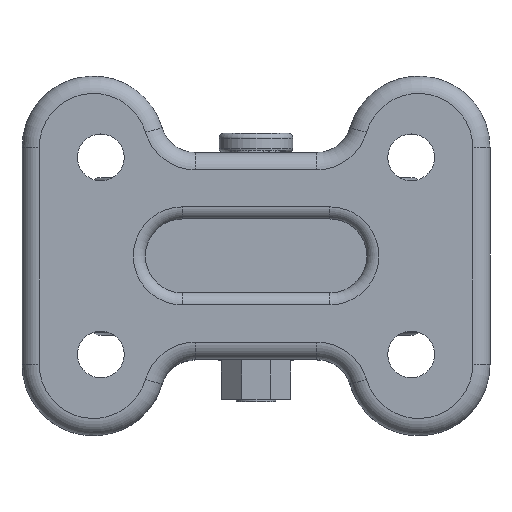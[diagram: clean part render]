
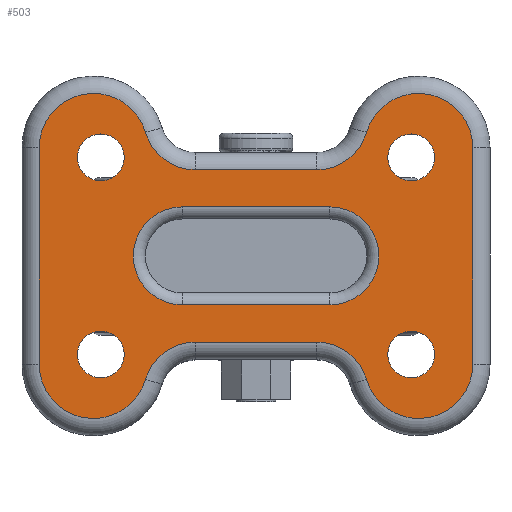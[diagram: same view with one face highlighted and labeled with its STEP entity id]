
A CAD part, top view. The second image highlights one B-rep face of the part: STEP entity #503.
In plain terms, the highlighted planar face has unit normal (0, 0, 1).
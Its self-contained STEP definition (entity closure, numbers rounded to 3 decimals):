
#503=ADVANCED_FACE('',(#1227,#1228,#1229,#1230,#1231,#1232),#764,.T.);
#764=PLANE('',#5656);
#1227=FACE_BOUND('',#1383,.T.);
#1228=FACE_BOUND('',#1384,.T.);
#1229=FACE_BOUND('',#1385,.T.);
#1230=FACE_BOUND('',#1386,.T.);
#1231=FACE_BOUND('',#1387,.T.);
#1232=FACE_BOUND('',#1388,.T.);
#1383=EDGE_LOOP('',(#2830,#2831,#2832,#2833,#2834,#2835,#2836,#2837,#2838,
#2839,#2840,#2841));
#1384=EDGE_LOOP('',(#2842,#2843,#2844,#2845));
#1385=EDGE_LOOP('',(#2846));
#1386=EDGE_LOOP('',(#2847));
#1387=EDGE_LOOP('',(#2848));
#1388=EDGE_LOOP('',(#2849));
#1732=LINE('',#8219,#2081);
#1733=LINE('',#8227,#2082);
#1734=LINE('',#8241,#2083);
#1735=LINE('',#8251,#2084);
#1737=LINE('',#8265,#2086);
#1747=LINE('',#8351,#2096);
#2081=VECTOR('',#6315,1.);
#2082=VECTOR('',#6326,1.);
#2083=VECTOR('',#6345,1.);
#2084=VECTOR('',#6360,1.);
#2086=VECTOR('',#6376,1.);
#2096=VECTOR('',#6452,1.);
#2830=ORIENTED_EDGE('',*,*,#4778,.T.);
#2831=ORIENTED_EDGE('',*,*,#4776,.T.);
#2832=ORIENTED_EDGE('',*,*,#4773,.T.);
#2833=ORIENTED_EDGE('',*,*,#4807,.T.);
#2834=ORIENTED_EDGE('',*,*,#4809,.T.);
#2835=ORIENTED_EDGE('',*,*,#4810,.T.);
#2836=ORIENTED_EDGE('',*,*,#4783,.T.);
#2837=ORIENTED_EDGE('',*,*,#4769,.T.);
#2838=ORIENTED_EDGE('',*,*,#4768,.T.);
#2839=ORIENTED_EDGE('',*,*,#4766,.T.);
#2840=ORIENTED_EDGE('',*,*,#4764,.T.);
#2841=ORIENTED_EDGE('',*,*,#4762,.T.);
#2842=ORIENTED_EDGE('',*,*,#4759,.T.);
#2843=ORIENTED_EDGE('',*,*,#4757,.T.);
#2844=ORIENTED_EDGE('',*,*,#4755,.T.);
#2845=ORIENTED_EDGE('',*,*,#4753,.T.);
#2846=ORIENTED_EDGE('',*,*,#4750,.F.);
#2847=ORIENTED_EDGE('',*,*,#4748,.F.);
#2848=ORIENTED_EDGE('',*,*,#4746,.F.);
#2849=ORIENTED_EDGE('',*,*,#4744,.F.);
#4174=VERTEX_POINT('',#8198);
#4176=VERTEX_POINT('',#8203);
#4178=VERTEX_POINT('',#8208);
#4180=VERTEX_POINT('',#8213);
#4182=VERTEX_POINT('',#8218);
#4183=VERTEX_POINT('',#8220);
#4184=VERTEX_POINT('',#8224);
#4185=VERTEX_POINT('',#8228);
#4186=VERTEX_POINT('',#8234);
#4187=VERTEX_POINT('',#8236);
#4188=VERTEX_POINT('',#8240);
#4189=VERTEX_POINT('',#8244);
#4190=VERTEX_POINT('',#8248);
#4191=VERTEX_POINT('',#8252);
#4194=VERTEX_POINT('',#8259);
#4195=VERTEX_POINT('',#8261);
#4196=VERTEX_POINT('',#8266);
#4200=VERTEX_POINT('',#8280);
#4214=VERTEX_POINT('',#8347);
#4215=VERTEX_POINT('',#8352);
#4744=EDGE_CURVE('',#4174,#4174,#5351,.T.);
#4746=EDGE_CURVE('',#4176,#4176,#5353,.T.);
#4748=EDGE_CURVE('',#4178,#4178,#5355,.T.);
#4750=EDGE_CURVE('',#4180,#4180,#5357,.T.);
#4753=EDGE_CURVE('',#4183,#4182,#1732,.T.);
#4755=EDGE_CURVE('',#4184,#4183,#5361,.T.);
#4757=EDGE_CURVE('',#4185,#4184,#1733,.T.);
#4759=EDGE_CURVE('',#4182,#4185,#5364,.T.);
#4762=EDGE_CURVE('',#4186,#4187,#5367,.T.);
#4764=EDGE_CURVE('',#4188,#4186,#1734,.T.);
#4766=EDGE_CURVE('',#4189,#4188,#5370,.T.);
#4768=EDGE_CURVE('',#4190,#4189,#5372,.T.);
#4769=EDGE_CURVE('',#4191,#4190,#1735,.T.);
#4773=EDGE_CURVE('',#4195,#4194,#5375,.T.);
#4776=EDGE_CURVE('',#4196,#4195,#1737,.T.);
#4778=EDGE_CURVE('',#4187,#4196,#5379,.T.);
#4783=EDGE_CURVE('',#4200,#4191,#5382,.T.);
#4807=EDGE_CURVE('',#4194,#4214,#5392,.T.);
#4809=EDGE_CURVE('',#4214,#4215,#1747,.T.);
#4810=EDGE_CURVE('',#4215,#4200,#5394,.T.);
#5351=CIRCLE('',#5581,4.75);
#5353=CIRCLE('',#5584,4.75);
#5355=CIRCLE('',#5587,4.75);
#5357=CIRCLE('',#5590,4.75);
#5361=CIRCLE('',#5596,9.949);
#5364=CIRCLE('',#5601,9.949);
#5367=CIRCLE('',#5605,10.5);
#5370=CIRCLE('',#5610,10.5);
#5372=CIRCLE('',#5613,11.);
#5375=CIRCLE('',#5618,11.);
#5379=CIRCLE('',#5624,11.);
#5382=CIRCLE('',#5629,11.);
#5392=CIRCLE('',#5652,10.5);
#5394=CIRCLE('',#5655,10.5);
#5581=AXIS2_PLACEMENT_3D('',#8197,#6289,#6290);
#5584=AXIS2_PLACEMENT_3D('',#8202,#6295,#6296);
#5587=AXIS2_PLACEMENT_3D('',#8207,#6301,#6302);
#5590=AXIS2_PLACEMENT_3D('',#8212,#6307,#6308);
#5596=AXIS2_PLACEMENT_3D('',#8223,#6320,#6321);
#5601=AXIS2_PLACEMENT_3D('',#8231,#6331,#6332);
#5605=AXIS2_PLACEMENT_3D('',#8237,#6339,#6340);
#5610=AXIS2_PLACEMENT_3D('',#8245,#6350,#6351);
#5613=AXIS2_PLACEMENT_3D('',#8249,#6356,#6357);
#5618=AXIS2_PLACEMENT_3D('',#8260,#6368,#6369);
#5624=AXIS2_PLACEMENT_3D('',#8269,#6381,#6382);
#5629=AXIS2_PLACEMENT_3D('',#8279,#6393,#6394);
#5652=AXIS2_PLACEMENT_3D('',#8348,#6446,#6447);
#5655=AXIS2_PLACEMENT_3D('',#8353,#6453,#6454);
#5656=AXIS2_PLACEMENT_3D('',#8354,#6455,#6456);
#6289=DIRECTION('',(0.,0.,1.));
#6290=DIRECTION('',(1.,0.,0.));
#6295=DIRECTION('',(0.,0.,1.));
#6296=DIRECTION('',(1.,0.,0.));
#6301=DIRECTION('',(0.,0.,1.));
#6302=DIRECTION('',(1.,0.,0.));
#6307=DIRECTION('',(0.,0.,1.));
#6308=DIRECTION('',(1.,0.,0.));
#6315=DIRECTION('',(-1.,0.,0.));
#6320=DIRECTION('',(0.,0.,-1.));
#6321=DIRECTION('',(1.,0.,0.));
#6326=DIRECTION('',(1.,0.,0.));
#6331=DIRECTION('',(0.,0.,-1.));
#6332=DIRECTION('',(1.,0.,0.));
#6339=DIRECTION('',(0.,0.,-1.));
#6340=DIRECTION('',(1.,0.,0.));
#6345=DIRECTION('',(-1.,0.,0.));
#6350=DIRECTION('',(0.,0.,-1.));
#6351=DIRECTION('',(1.,0.,0.));
#6356=DIRECTION('',(0.,0.,1.));
#6357=DIRECTION('',(1.,0.,0.));
#6360=DIRECTION('',(0.,1.,0.));
#6368=DIRECTION('',(0.,0.,1.));
#6369=DIRECTION('',(1.,0.,0.));
#6376=DIRECTION('',(0.,-1.,0.));
#6381=DIRECTION('',(0.,0.,1.));
#6382=DIRECTION('',(1.,0.,0.));
#6393=DIRECTION('',(0.,0.,1.));
#6394=DIRECTION('',(1.,0.,0.));
#6446=DIRECTION('',(0.,0.,-1.));
#6447=DIRECTION('',(1.,0.,0.));
#6452=DIRECTION('',(1.,0.,0.));
#6453=DIRECTION('',(0.,0.,-1.));
#6454=DIRECTION('',(1.,0.,0.));
#6455=DIRECTION('',(0.,0.,1.));
#6456=DIRECTION('',(-1.,0.,0.));
#8197=CARTESIAN_POINT('',(-31.551,20.,0.));
#8198=CARTESIAN_POINT('',(-26.801,20.,0.));
#8202=CARTESIAN_POINT('',(-31.551,-20.,0.));
#8203=CARTESIAN_POINT('',(-26.801,-20.,0.));
#8207=CARTESIAN_POINT('',(31.449,-20.,0.));
#8208=CARTESIAN_POINT('',(36.199,-20.,0.));
#8212=CARTESIAN_POINT('',(31.449,20.,0.));
#8213=CARTESIAN_POINT('',(36.199,20.,0.));
#8218=CARTESIAN_POINT('',(-15.,-9.949,0.));
#8219=CARTESIAN_POINT('',(-15.,-9.949,0.));
#8220=CARTESIAN_POINT('',(14.949,-9.949,0.));
#8223=CARTESIAN_POINT('',(14.949,0.,0.));
#8224=CARTESIAN_POINT('',(14.949,9.949,0.));
#8227=CARTESIAN_POINT('',(14.949,9.949,0.));
#8228=CARTESIAN_POINT('',(-15.,9.949,0.));
#8231=CARTESIAN_POINT('',(-15.,0.,0.));
#8234=CARTESIAN_POINT('',(-12.405,17.5,0.));
#8236=CARTESIAN_POINT('',(-22.488,25.07,0.));
#8237=CARTESIAN_POINT('',(-12.405,28.,0.));
#8240=CARTESIAN_POINT('',(12.304,17.5,0.));
#8241=CARTESIAN_POINT('',(-33.051,17.5,0.));
#8244=CARTESIAN_POINT('',(22.387,25.07,0.));
#8245=CARTESIAN_POINT('',(12.304,28.,0.));
#8248=CARTESIAN_POINT('',(43.949,22.,0.));
#8249=CARTESIAN_POINT('',(32.949,22.,0.));
#8251=CARTESIAN_POINT('',(43.949,-22.,0.));
#8252=CARTESIAN_POINT('',(43.949,-22.,0.));
#8259=CARTESIAN_POINT('',(-22.488,-25.07,0.));
#8260=CARTESIAN_POINT('',(-33.051,-22.,0.));
#8261=CARTESIAN_POINT('',(-44.051,-22.,0.));
#8265=CARTESIAN_POINT('',(-44.051,-22.,0.));
#8266=CARTESIAN_POINT('',(-44.051,22.,0.));
#8269=CARTESIAN_POINT('',(-33.051,22.,0.));
#8279=CARTESIAN_POINT('',(32.949,-22.,0.));
#8280=CARTESIAN_POINT('',(22.387,-25.07,0.));
#8347=CARTESIAN_POINT('',(-12.405,-17.5,0.));
#8348=CARTESIAN_POINT('',(-12.405,-28.,0.));
#8351=CARTESIAN_POINT('',(-33.051,-17.5,0.));
#8352=CARTESIAN_POINT('',(12.304,-17.5,0.));
#8353=CARTESIAN_POINT('',(12.304,-28.,0.));
#8354=CARTESIAN_POINT('',(-33.051,-22.,0.));
